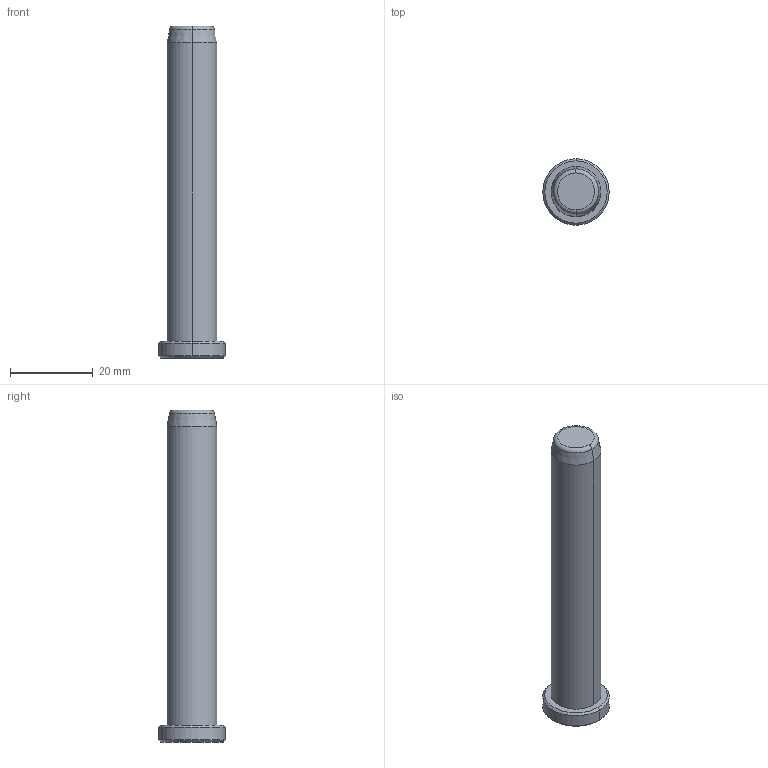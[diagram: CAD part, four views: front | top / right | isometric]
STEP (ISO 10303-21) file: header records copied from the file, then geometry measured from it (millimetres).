
FILE_DESCRIPTION((''),'2;1');
FILE_NAME('B81812080','2018-01-06T',('MANU'),(''),'PRO/ENGINEER BY PARAMETRIC TECHNOLOGY CORPORATION, 2012130','PRO/ENGINEER BY PARAMETRIC TECHNOLOGY CORPORATION, 2012130','');
FILE_SCHEMA(('CONFIG_CONTROL_DESIGN'));
Length unit declared in the file: millimetre
Products named in the file (1): B81812080
Bounding box: 16 x 16 x 80 mm (x, y, z)
Volume: 9331.7 mm3; surface area: 3396.8 mm2
Topology: 1 solids, 1 shells, 15 faces, 28 edges, 16 vertices
Faces by surface type: cone 6, cylinder 4, plane 3, torus 2
Entity records: 414 total; most frequent: DIRECTION 76, CARTESIAN_POINT 59, ORIENTED_EDGE 56, AXIS2_PLACEMENT_3D 33, EDGE_CURVE 28, CIRCLE 18, VERTEX_POINT 16, EDGE_LOOP 16
